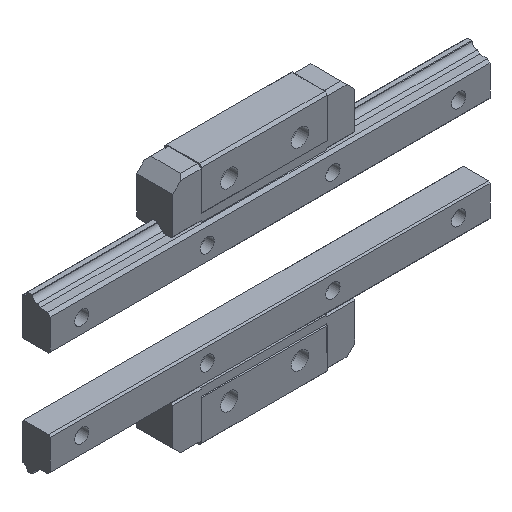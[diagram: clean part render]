
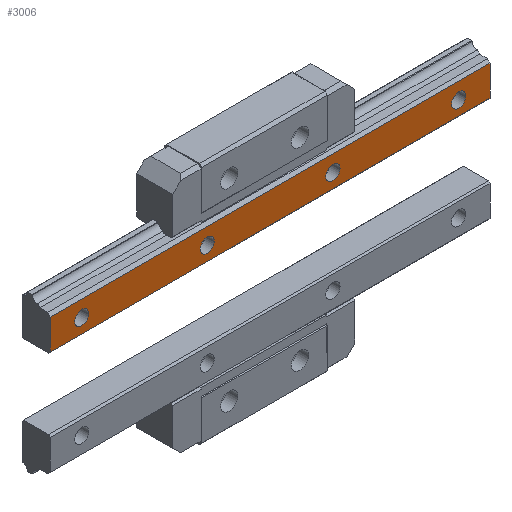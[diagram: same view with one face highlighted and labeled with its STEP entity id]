
A CAD part, isometric view. The second image highlights one B-rep face of the part: STEP entity #3006.
In plain terms, the highlighted planar face has unit normal (0, -1, 0).
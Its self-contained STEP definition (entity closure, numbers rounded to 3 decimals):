
#88=CIRCLE('',#3229,4.5);
#89=CIRCLE('',#3230,4.5);
#90=CIRCLE('',#3231,4.5);
#91=CIRCLE('',#3232,4.5);
#172=ORIENTED_EDGE('',*,*,#999,.F.);
#173=ORIENTED_EDGE('',*,*,#1000,.F.);
#174=ORIENTED_EDGE('',*,*,#1001,.F.);
#175=ORIENTED_EDGE('',*,*,#1002,.F.);
#176=ORIENTED_EDGE('',*,*,#1003,.T.);
#177=ORIENTED_EDGE('',*,*,#1004,.F.);
#178=ORIENTED_EDGE('',*,*,#1005,.F.);
#179=ORIENTED_EDGE('',*,*,#997,.T.);
#997=EDGE_CURVE('',#1411,#1410,#1709,.T.);
#999=EDGE_CURVE('',#1412,#1412,#88,.T.);
#1000=EDGE_CURVE('',#1413,#1413,#89,.T.);
#1001=EDGE_CURVE('',#1414,#1414,#90,.T.);
#1002=EDGE_CURVE('',#1415,#1415,#91,.T.);
#1003=EDGE_CURVE('',#1410,#1416,#1711,.T.);
#1004=EDGE_CURVE('',#1417,#1416,#1712,.T.);
#1005=EDGE_CURVE('',#1411,#1417,#1713,.T.);
#1410=VERTEX_POINT('',#4340);
#1411=VERTEX_POINT('',#4342);
#1412=VERTEX_POINT('',#4346);
#1413=VERTEX_POINT('',#4348);
#1414=VERTEX_POINT('',#4350);
#1415=VERTEX_POINT('',#4352);
#1416=VERTEX_POINT('',#4354);
#1417=VERTEX_POINT('',#4356);
#1709=LINE('',#4341,#2047);
#1711=LINE('',#4353,#2049);
#1712=LINE('',#4355,#2050);
#1713=LINE('',#4357,#2051);
#2047=VECTOR('',#3491,1000.);
#2049=VECTOR('',#3503,1000.);
#2050=VECTOR('',#3504,1000.);
#2051=VECTOR('',#3505,1000.);
#2382=EDGE_LOOP('',(#172));
#2383=EDGE_LOOP('',(#173));
#2384=EDGE_LOOP('',(#174));
#2385=EDGE_LOOP('',(#175));
#2386=EDGE_LOOP('',(#176,#177,#178,#179));
#2628=FACE_BOUND('',#2382,.T.);
#2629=FACE_BOUND('',#2383,.T.);
#2630=FACE_BOUND('',#2384,.T.);
#2631=FACE_BOUND('',#2385,.T.);
#2632=FACE_BOUND('',#2386,.T.);
#2876=PLANE('',#3228);
#3006=ADVANCED_FACE('',(#2628,#2629,#2630,#2631,#2632),#2876,.F.);
#3228=AXIS2_PLACEMENT_3D('',#4344,#3493,#3494);
#3229=AXIS2_PLACEMENT_3D('',#4345,#3495,#3496);
#3230=AXIS2_PLACEMENT_3D('',#4347,#3497,#3498);
#3231=AXIS2_PLACEMENT_3D('',#4349,#3499,#3500);
#3232=AXIS2_PLACEMENT_3D('',#4351,#3501,#3502);
#3491=DIRECTION('',(0.,0.,-1.));
#3493=DIRECTION('',(0.,1.,0.));
#3494=DIRECTION('',(-1.,0.,0.));
#3495=DIRECTION('',(0.,-1.,0.));
#3496=DIRECTION('',(0.,0.,-1.));
#3497=DIRECTION('',(0.,-1.,0.));
#3498=DIRECTION('',(0.,0.,-1.));
#3499=DIRECTION('',(0.,-1.,0.));
#3500=DIRECTION('',(0.,0.,-1.));
#3501=DIRECTION('',(0.,-1.,0.));
#3502=DIRECTION('',(0.,0.,-1.));
#3503=DIRECTION('',(1.,0.,0.));
#3504=DIRECTION('',(0.,0.,-1.));
#3505=DIRECTION('',(1.,0.,0.));
#4340=CARTESIAN_POINT('',(1.,0.,-260.));
#4341=CARTESIAN_POINT('',(1.,0.,20.));
#4342=CARTESIAN_POINT('',(1.,0.,20.));
#4344=CARTESIAN_POINT('',(1.,0.,20.));
#4345=CARTESIAN_POINT('',(10.,0.,-80.));
#4346=CARTESIAN_POINT('',(10.,0.,-84.5));
#4347=CARTESIAN_POINT('',(10.,0.,-160.));
#4348=CARTESIAN_POINT('',(10.,0.,-164.5));
#4349=CARTESIAN_POINT('',(10.,0.,-240.));
#4350=CARTESIAN_POINT('',(10.,0.,-244.5));
#4351=CARTESIAN_POINT('',(10.,0.,0.));
#4352=CARTESIAN_POINT('',(10.,0.,-4.5));
#4353=CARTESIAN_POINT('',(1.,0.,-260.));
#4354=CARTESIAN_POINT('',(20.3,0.,-260.));
#4355=CARTESIAN_POINT('',(20.3,0.,20.));
#4356=CARTESIAN_POINT('',(20.3,0.,20.));
#4357=CARTESIAN_POINT('',(1.,0.,20.));
